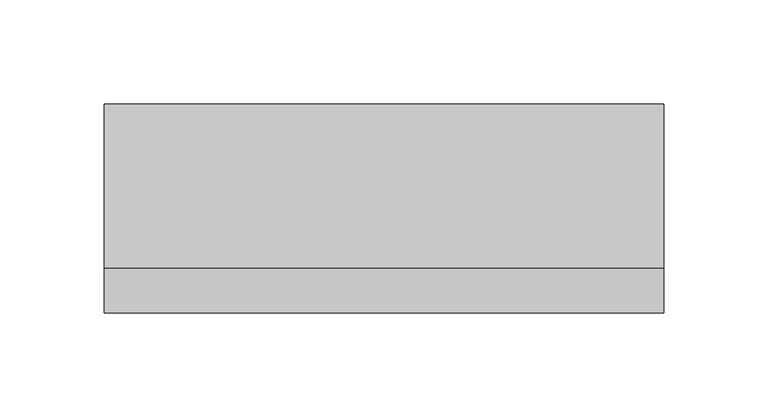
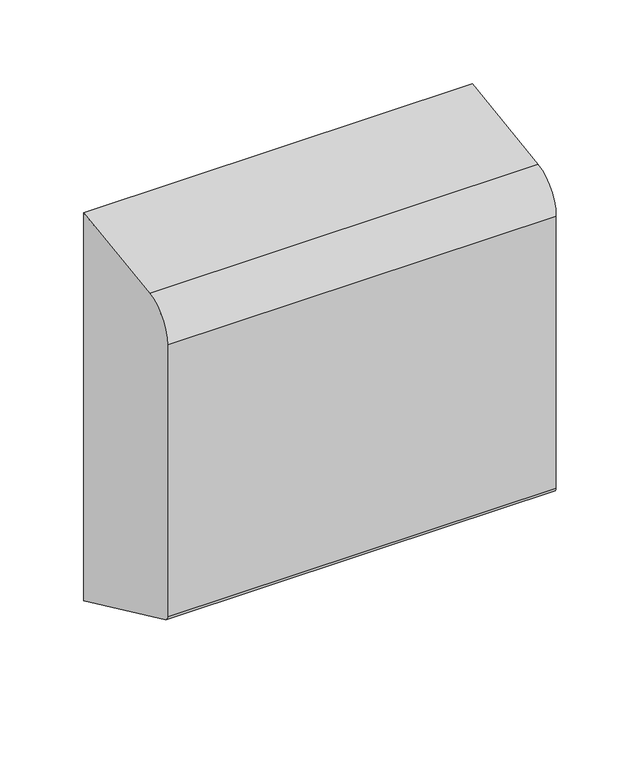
"""IFC4 building model written with IfcOpenShell, lengths in millimetres: proxy geometry, Hand Dryer_Metlam_Slimline : 268w x 100d x 283h (ML_100N_SS)."""

import ifcopenshell
import ifcopenshell.guid

model = None  # the IFC model being written
_history = None  # IfcOwnerHistory: only IFC2X3 demands one
_inside = {}  # id of a spatial element -> (the spatial element, [elements in it])
_under = {}  # id of a project, library or spatial element -> (it, [spatial elements below it])
_declared = {}  # id of a project -> (the project, [libraries it declares])
_typed = {}  # id of a type object -> (the type object, [elements of that type])
_made_of = {}  # id of a material, layer set ... -> (it, [elements and type objects made of it])


def new_model(schema):
    """Start an empty IFC model of exactly this schema.

    Asked for "IFC4X3", IfcOpenShell would pick the latest addendum, in which some entities
    have other attributes; the version numbers below select the first issue.
    IFC2X3 requires an IfcOwnerHistory on every rooted entity: one is made here for all.
    """
    global model, _history
    if schema == "IFC4X3":
        model = ifcopenshell.file(schema_version=(4, 3, 0, 0))
    else:
        model = ifcopenshell.file(schema=schema)
    _inside.clear()
    _under.clear()
    _declared.clear()
    _typed.clear()
    _made_of.clear()
    _history = None
    if model.schema == "IFC2X3":
        org = make("IfcOrganization", Name="unknown")
        user = make(
            "IfcPersonAndOrganization",
            ThePerson=make("IfcPerson", FamilyName="unknown"),
            TheOrganization=org,
        )
        app = make(
            "IfcApplication",
            ApplicationDeveloper=org,
            Version="unknown",
            ApplicationFullName="unknown",
            ApplicationIdentifier="unknown",
        )
        _history = make(
            "IfcOwnerHistory",
            OwningUser=user,
            OwningApplication=app,
            ChangeAction="ADDED",
            CreationDate=0,
        )
    return model


def make(cls, **values):
    """One entity of the class cls with the attributes given. An attribute that is None is left unset."""
    return model.create_entity(
        cls, **{name: value for name, value in values.items() if value is not None}
    )


def rooted(cls, **values):
    """An entity with a GlobalId (a new one), such as an element, a storey or a relation."""
    return make(cls, GlobalId=ifcopenshell.guid.new(), OwnerHistory=_history, **values)


def si_unit(unit_type, name, prefix=None):
    """IfcSIUnit, for example si_unit("LENGTHUNIT", "METRE", prefix="MILLI")."""
    return make("IfcSIUnit", UnitType=unit_type, Prefix=prefix, Name=name)


def assignment(units):
    """IfcUnitAssignment: the units of a project."""
    return None if units is None else make("IfcUnitAssignment", Units=units)


def point(xyz):
    """IfcCartesianPoint."""
    return None if xyz is None else make("IfcCartesianPoint", Coordinates=xyz)


def direction(xyz):
    """IfcDirection."""
    return None if xyz is None else make("IfcDirection", DirectionRatios=xyz)


def frame(location, z_axis=None, x_axis=None):
    """IfcAxis2Placement3D, a coordinate frame: its origin and axes. An axis left out is left unset."""
    return make(
        "IfcAxis2Placement3D",
        Location=point(location),
        Axis=direction(z_axis),
        RefDirection=direction(x_axis),
    )


def origin():
    """The frame at (0, 0, 0) with its axes left unset."""
    return frame((0.0, 0.0, 0.0))


def place(relative_to, where):
    """IfcLocalPlacement: puts the frame where relative to a parent placement (None: the world)."""
    return make(
        "IfcLocalPlacement", PlacementRelTo=relative_to, RelativePlacement=where
    )


def context(
    kind, dimensions, precision=None, world=None, true_north=None, identifier=None
):
    """IfcGeometricRepresentationContext, for example the 3D "Model" context."""
    return make(
        "IfcGeometricRepresentationContext",
        ContextIdentifier=identifier,
        ContextType=kind,
        CoordinateSpaceDimension=dimensions,
        Precision=precision,
        WorldCoordinateSystem=world,
        TrueNorth=true_north,
    )


def project(units=None, contexts=None):
    """IfcProject with its units and contexts."""
    return rooted(
        "IfcProject",
        Name="project",
        RepresentationContexts=contexts,
        UnitsInContext=assignment(units),
    )


def spatial(cls, under=None, at=None, **own):
    """A site, building, storey or space (cls), placed at a placement, below another one or the project."""
    s = rooted(cls, ObjectPlacement=at, **own)
    if under is not None:
        _under.setdefault(under.id(), (under, []))[1].append(s)
    return s


def polyline(points):
    """IfcPolyline through the points."""
    return make("IfcPolyline", Points=[point(p) for p in points])


def circle_curve(where, radius):
    """IfcCircle in the frame where."""
    return make("IfcCircle", Position=where, Radius=radius)


def ellipse_curve(where, semi_axis1, semi_axis2):
    """IfcEllipse in the frame where."""
    return make(
        "IfcEllipse", Position=where, SemiAxis1=semi_axis1, SemiAxis2=semi_axis2
    )


def shape(context_of_items, identifier, shape_type, items):
    """IfcShapeRepresentation: the items that make up one representation, for example the "Body"."""
    return make(
        "IfcShapeRepresentation",
        ContextOfItems=context_of_items,
        RepresentationIdentifier=identifier,
        RepresentationType=shape_type,
        Items=items,
    )


def source(mapping_origin, context_of_items, identifier, shape_type, items):
    """IfcRepresentationMap: a shape defined once, which mapped items show again and again."""
    return make(
        "IfcRepresentationMap",
        MappingOrigin=mapping_origin,
        MappedRepresentation=shape(context_of_items, identifier, shape_type, items),
    )


def transform(
    local_origin,
    x_axis=None,
    y_axis=None,
    z_axis=None,
    scale=None,
    scale2=None,
    scale3=None,
    uniform=True,
):
    """IfcCartesianTransformationOperator3D, or its non-uniform kind. x_axis, y_axis, z_axis: its Axis1, 2, 3."""
    if uniform:
        return make(
            "IfcCartesianTransformationOperator3D",
            Axis1=direction(x_axis),
            Axis2=direction(y_axis),
            LocalOrigin=point(local_origin),
            Scale=scale,
            Axis3=direction(z_axis),
        )
    return make(
        "IfcCartesianTransformationOperator3DnonUniform",
        Axis1=direction(x_axis),
        Axis2=direction(y_axis),
        LocalOrigin=point(local_origin),
        Scale=scale,
        Axis3=direction(z_axis),
        Scale2=scale2,
        Scale3=scale3,
    )


def mapped(mapping_source, mapping_target):
    """IfcMappedItem: shows the shape of a source again, moved by a transform."""
    return make(
        "IfcMappedItem", MappingSource=mapping_source, MappingTarget=mapping_target
    )


def made_of(thing, what):
    """Note that an element or type object is made of a material, layer set ...; save() writes the relation."""
    if what is not None:
        _made_of.setdefault(what.id(), (what, []))[1].append(thing)
    return thing


def element(
    cls,
    number,
    at=None,
    inside=None,
    cuts=None,
    type_object=None,
    material=None,
    context=None,
    identifier="Body",
    shape_type=None,
    held_by="IfcProductDefinitionShape",
    body=None,
    shapes=None,
    **own,
):
    """One element of the class cls, such as IfcWall. Its Tag is "e" and its number.

    at: its placement. inside: the storey or other place that contains it. cuts: it is an
    opening in that element (IfcRelVoidsElement). A single representation is given by context,
    identifier, shape_type and body (its items); several are given by shapes. held_by: the class
    of the entity that holds the representations. save() writes the other relations.
    """
    e = rooted(cls, Tag="e%d" % number, ObjectPlacement=at, **own)
    if body is not None:
        shapes = [shape(context, identifier, shape_type, body)]
    if shapes is not None:
        e.Representation = make(held_by, Representations=shapes)
    if inside is not None:
        _inside.setdefault(inside.id(), (inside, []))[1].append(e)
    if cuts is not None:
        rooted(
            "IfcRelVoidsElement", RelatingBuildingElement=cuts, RelatedOpeningElement=e
        )
    if type_object is not None:
        _typed.setdefault(type_object.id(), (type_object, []))[1].append(e)
    return made_of(e, material)


def aggregate(whole, parts):
    """IfcRelAggregates: a whole, such as a stair, and the parts it consists of."""
    return rooted("IfcRelAggregates", RelatingObject=whole, RelatedObjects=parts)


def save(model, path):
    """Write the relations noted so far, then the file.

    IfcRelAggregates (storeys below a building ...), IfcRelContainedInSpatialStructure (elements
    in a storey), IfcRelDefinesByType, IfcRelAssociatesMaterial and IfcRelDeclares: one each for
    every whole, place, type object, material and project.
    """
    for whole, parts in _under.values():
        aggregate(whole, parts)
    for where, things in _inside.values():
        rooted(
            "IfcRelContainedInSpatialStructure",
            RelatedElements=things,
            RelatingStructure=where,
        )
    for kind, things in _typed.values():
        rooted("IfcRelDefinesByType", RelatedObjects=things, RelatingType=kind)
    for what, things in _made_of.values():
        rooted("IfcRelAssociatesMaterial", RelatedObjects=things, RelatingMaterial=what)
    for by, libraries in _declared.values():
        rooted("IfcRelDeclares", RelatingContext=by, RelatedDefinitions=libraries)
    model.write(path)


def plane_surface(at):
    """IfcPlane: the flat surface through the origin of the frame at, square to its z axis."""
    return make("IfcPlane", Position=at)


def cylinder_surface(at, radius):
    """IfcCylindricalSurface: all points at the distance radius from the z axis of the frame at."""
    return make("IfcCylindricalSurface", Position=at, Radius=radius)


def revolved_surface(curve, axis_point, axis_direction):
    """IfcSurfaceOfRevolution: the curve turned about the line through axis_point along axis_direction."""
    return make(
        "IfcSurfaceOfRevolution",
        SweptCurve=make("IfcArbitraryOpenProfileDef", ProfileType="CURVE", Curve=curve),
        AxisPosition=make("IfcAxis1Placement", Location=point(axis_point), Axis=direction(axis_direction)),
    )


def advanced_brep(points, edges, surfaces, faces):
    """IfcAdvancedBrep: a solid bounded by faces that lie on surfaces and meet in shared edges.

    An edge is (start, end): straight between two places in points (the first is 0);
    or (start, end, curve); or (start, end, curve, False) where it runs against its curve.
    A face is (place in surfaces, loops), or (place, loops, False) where it looks against
    its surface's normal. A loop lists edges by number (the first is 1), with a minus sign
    where the edge is run from its end to its start. The first loop is the outer one.
    """
    corners = [point(p) for p in points]
    vertices = [make("IfcVertexPoint", VertexGeometry=c) for c in corners]
    made = []
    for start, end, *more in edges:
        made.append(
            make(
                "IfcEdgeCurve",
                EdgeStart=vertices[start],
                EdgeEnd=vertices[end],
                EdgeGeometry=more[0] if more else make("IfcPolyline", Points=[corners[start], corners[end]]),
                SameSense=more[1] if len(more) > 1 else True,
            )
        )
    hull = []
    for where, loops, *sense in faces:
        bounds = []
        for j, loop in enumerate(loops):
            ring = [make("IfcOrientedEdge", EdgeElement=made[abs(k) - 1], Orientation=k > 0) for k in loop]
            bounds.append(
                make(
                    "IfcFaceOuterBound" if j == 0 else "IfcFaceBound",
                    Bound=make("IfcEdgeLoop", EdgeList=ring),
                    Orientation=True,
                )
            )
        hull.append(make("IfcAdvancedFace", Bounds=bounds, FaceSurface=surfaces[where], SameSense=sense[0] if sense else True))
    return make("IfcAdvancedBrep", Outer=make("IfcClosedShell", CfsFaces=hull))


def specialty_equipment_0715c5d2(model_context):
    return source(origin(), model_context, "Body", "AdvancedBrep", [
        advanced_brep(
        [(75.572758, -81.2312691, 1140.2865856), (72.572758, -81.2312691, 1140.2865856), (72.572758, -27.319618, 1115.0151027), (75.572758, -27.319618, 1115.0151027), (67.572758, -81.2312691, 1140.2865856), (64.572758, -81.2312691, 1140.2865856), (64.572758, -27.319618, 1115.0151027), (67.572758, -27.319618, 1115.0151027), (59.572758, -81.2312691, 1140.2865856), (56.572758, -81.2312691, 1140.2865856), (56.572758, -27.319618, 1115.0151027), (59.572758, -27.319618, 1115.0151027), (51.572758, -81.2312691, 1140.2865856), (48.572758, -81.2312691, 1140.2865856), (48.572758, -27.319618, 1115.0151027), (51.572758, -27.319618, 1115.0151027), (43.572758, -81.2312691, 1140.2865856), (40.572758, -81.2312691, 1140.2865856), (40.572758, -27.319618, 1115.0151027), (43.572758, -27.319618, 1115.0151027), (35.572758, -81.2312691, 1140.2865856), (32.572758, -81.2312691, 1140.2865856), (32.572758, -27.319618, 1115.0151027), (35.572758, -27.319618, 1115.0151027), (27.572758, -81.2312691, 1140.2865856), (24.572758, -81.2312691, 1140.2865856), (24.572758, -27.319618, 1115.0151027), (27.572758, -27.319618, 1115.0151027), (11.572758, -81.2312691, 1140.2865856), (8.572758, -81.2312691, 1140.2865856), (8.572758, -27.319618, 1115.0151027), (11.572758, -27.319618, 1115.0151027), (19.572758, -81.2312691, 1140.2865856), (16.572758, -81.2312691, 1140.2865856), (16.572758, -27.319618, 1115.0151027), (19.572758, -27.319618, 1115.0151027), (-19.0, -79.8730846, 1139.6499266), (-22.0, -82.5894537, 1140.9232446), (-86.0, -82.5894537, 1140.9232446), (-89.0, -79.8730846, 1139.6499266), (-89.0, -49.0875677, 1125.2189892), (-86.0, -46.3711986, 1123.9456712), (-22.0, -46.3711986, 1123.9456712), (-19.0, -49.0875677, 1125.2189892), (75.572758, -82.0801478, 1138.4756728), (72.572758, -82.0801478, 1138.4756728), (72.572758, -28.1684966, 1113.2041899), (75.572758, -28.1684966, 1113.2041899), (-22.0, -83.4383324, 1139.1123318), (-86.0, -83.4383324, 1139.1123318), (-89.0, -80.7219632, 1137.8390138), (-89.0, -49.9364464, 1123.4080764), (-86.0, -47.2200773, 1122.1347584), (-22.0, -47.2200773, 1122.1347584), (-19.0, -49.9364464, 1123.4080764), (-19.0, -80.7219632, 1137.8390138), (134.0, 0.0, 1100.0), (134.0, 0.0, 1383.0), (134.0, -78.4793275, 1371.9704498), (134.0, -100.0, 1347.2137481), (134.0, -100.0, 1149.1005386), (134.0, -97.9855377, 1145.9314413), (-134.0, 0.0, 1100.0), (-134.0, -97.9855377, 1145.9314413), (-134.0, -100.0, 1149.1005386), (-134.0, -100.0, 1347.2137481), (-134.0, -78.4793275, 1371.9704498), (-134.0, 0.0, 1383.0), (-99.0157072, -9.0545638, 1104.2443933), (-99.0157072, -23.5418658, 1111.0354227), (99.0157072, -9.0545638, 1104.2443933), (99.0157072, -23.5418658, 1111.0354227), (64.572758, -82.0801478, 1138.4756728), (67.572758, -82.0801478, 1138.4756728), (67.572758, -28.1684966, 1113.2041899), (64.572758, -28.1684966, 1113.2041899), (56.572758, -82.0801478, 1138.4756728), (59.572758, -82.0801478, 1138.4756728), (59.572758, -28.1684966, 1113.2041899), (56.572758, -28.1684966, 1113.2041899), (48.572758, -82.0801478, 1138.4756728), (51.572758, -82.0801478, 1138.4756728), (51.572758, -28.1684966, 1113.2041899), (48.572758, -28.1684966, 1113.2041899), (40.572758, -82.0801478, 1138.4756728), (43.572758, -82.0801478, 1138.4756728), (43.572758, -28.1684966, 1113.2041899), (40.572758, -28.1684966, 1113.2041899), (32.572758, -82.0801478, 1138.4756728), (35.572758, -82.0801478, 1138.4756728), (35.572758, -28.1684966, 1113.2041899), (32.572758, -28.1684966, 1113.2041899), (24.572758, -82.0801478, 1138.4756728), (27.572758, -82.0801478, 1138.4756728), (27.572758, -28.1684966, 1113.2041899), (24.572758, -28.1684966, 1113.2041899), (8.572758, -82.0801478, 1138.4756728), (11.572758, -82.0801478, 1138.4756728), (11.572758, -28.1684966, 1113.2041899), (8.572758, -28.1684966, 1113.2041899), (16.572758, -82.0801478, 1138.4756728), (19.572758, -82.0801478, 1138.4756728), (19.572758, -28.1684966, 1113.2041899), (16.572758, -28.1684966, 1113.2041899), (129.0, -8.0, 1103.7500588), (129.0, -2.0, 1100.9375147), (121.5, -2.0, 1100.9375147), (121.5, -8.0, 1103.7500588), (-99.0157072, -22.6929871, 1112.8463355), (-99.0157072, -8.2056851, 1106.0553061), (99.0157072, -22.6929871, 1112.8463355), (99.0157072, -8.2056851, 1106.0553061), (129.0, -8.0, 1109.3170246), (121.5, -8.0, 1109.3170246), (121.5, -2.0, 1109.3170246), (129.0, -2.0, 1109.3170246)],
        [
            (0, 1, circle_curve(frame((74.072758, -81.2312691, 1140.2865856), z_axis=(0.0, -0.424439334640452, -0.9054563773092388), x_axis=(0.0, 0.9054563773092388, -0.424439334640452)), 1.5)),
            (1, 2),
            (2, 3, circle_curve(frame((74.072758, -27.319618, 1115.0151027), z_axis=(0.0, -0.424439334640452, -0.9054563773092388), x_axis=(0.0, 0.9054563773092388, -0.424439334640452)), 1.5)),
            (3, 0),
            (4, 5, circle_curve(frame((66.072758, -81.2312691, 1140.2865856), z_axis=(0.0, -0.424439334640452, -0.9054563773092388), x_axis=(0.0, 0.9054563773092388, -0.424439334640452)), 1.5)),
            (5, 6),
            (6, 7, circle_curve(frame((66.072758, -27.319618, 1115.0151027), z_axis=(0.0, -0.424439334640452, -0.9054563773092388), x_axis=(0.0, 0.9054563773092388, -0.424439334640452)), 1.5)),
            (7, 4),
            (8, 9, circle_curve(frame((58.072758, -81.2312691, 1140.2865856), z_axis=(0.0, -0.424439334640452, -0.9054563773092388), x_axis=(0.0, 0.9054563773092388, -0.424439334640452)), 1.5)),
            (9, 10),
            (10, 11, circle_curve(frame((58.072758, -27.319618, 1115.0151027), z_axis=(0.0, -0.424439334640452, -0.9054563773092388), x_axis=(0.0, 0.9054563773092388, -0.424439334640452)), 1.5)),
            (11, 8),
            (12, 13, circle_curve(frame((50.072758, -81.2312691, 1140.2865856), z_axis=(0.0, -0.424439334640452, -0.9054563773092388), x_axis=(0.0, 0.9054563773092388, -0.424439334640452)), 1.5)),
            (13, 14),
            (14, 15, circle_curve(frame((50.072758, -27.319618, 1115.0151027), z_axis=(0.0, -0.424439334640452, -0.9054563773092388), x_axis=(0.0, 0.9054563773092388, -0.424439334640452)), 1.5)),
            (15, 12),
            (16, 17, circle_curve(frame((42.072758, -81.2312691, 1140.2865856), z_axis=(0.0, -0.424439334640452, -0.9054563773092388), x_axis=(0.0, 0.9054563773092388, -0.424439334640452)), 1.5)),
            (17, 18),
            (18, 19, circle_curve(frame((42.072758, -27.319618, 1115.0151027), z_axis=(0.0, -0.424439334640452, -0.9054563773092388), x_axis=(0.0, 0.9054563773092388, -0.424439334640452)), 1.5)),
            (19, 16),
            (20, 21, circle_curve(frame((34.072758, -81.2312691, 1140.2865856), z_axis=(0.0, -0.424439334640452, -0.9054563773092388), x_axis=(0.0, 0.9054563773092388, -0.424439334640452)), 1.5)),
            (21, 22),
            (22, 23, circle_curve(frame((34.072758, -27.319618, 1115.0151027), z_axis=(0.0, -0.424439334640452, -0.9054563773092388), x_axis=(0.0, 0.9054563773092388, -0.424439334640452)), 1.5)),
            (23, 20),
            (24, 25, circle_curve(frame((26.072758, -81.2312691, 1140.2865856), z_axis=(0.0, -0.424439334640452, -0.9054563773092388), x_axis=(0.0, 0.9054563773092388, -0.424439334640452)), 1.5)),
            (25, 26),
            (26, 27, circle_curve(frame((26.072758, -27.319618, 1115.0151027), z_axis=(0.0, -0.424439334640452, -0.9054563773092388), x_axis=(0.0, 0.9054563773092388, -0.424439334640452)), 1.5)),
            (27, 24),
            (28, 29, circle_curve(frame((10.072758, -81.2312691, 1140.2865856), z_axis=(0.0, -0.424439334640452, -0.9054563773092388), x_axis=(0.0, 0.9054563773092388, -0.424439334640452)), 1.5)),
            (29, 30),
            (30, 31, circle_curve(frame((10.072758, -27.319618, 1115.0151027), z_axis=(0.0, -0.424439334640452, -0.9054563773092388), x_axis=(0.0, 0.9054563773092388, -0.424439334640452)), 1.5)),
            (31, 28),
            (32, 33, circle_curve(frame((18.072758, -81.2312691, 1140.2865856), z_axis=(0.0, -0.424439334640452, -0.9054563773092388), x_axis=(0.0, 0.9054563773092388, -0.424439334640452)), 1.5)),
            (33, 34),
            (34, 35, circle_curve(frame((18.072758, -27.319618, 1115.0151027), z_axis=(0.0, -0.424439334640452, -0.9054563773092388), x_axis=(0.0, 0.9054563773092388, -0.424439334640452)), 1.5)),
            (35, 32),
            (36, 37, circle_curve(frame((-22.0, -79.8730846, 1139.6499266), z_axis=(0.0, -0.424439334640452, -0.9054563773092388), x_axis=(0.0, 0.9054563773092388, -0.424439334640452)), 3.0)),
            (37, 38),
            (38, 39, circle_curve(frame((-86.0, -79.8730846, 1139.6499266), z_axis=(0.0, -0.424439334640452, -0.9054563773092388), x_axis=(0.0, 0.9054563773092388, -0.424439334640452)), 3.0)),
            (39, 40),
            (40, 41, circle_curve(frame((-86.0, -49.0875677, 1125.2189892), z_axis=(0.0, -0.424439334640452, -0.9054563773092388), x_axis=(0.0, 0.9054563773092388, -0.424439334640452)), 3.0)),
            (41, 42),
            (42, 43, circle_curve(frame((-22.0, -49.0875677, 1125.2189892), z_axis=(0.0, -0.424439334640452, -0.9054563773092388), x_axis=(0.0, 0.9054563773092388, -0.424439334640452)), 3.0)),
            (43, 36),
            (0, 44),
            (44, 45, circle_curve(frame((74.072758, -82.0801478, 1138.4756728), z_axis=(0.0, -0.424439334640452, -0.9054563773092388), x_axis=(0.0, 0.9054563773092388, -0.424439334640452)), 1.5)),
            (45, 1),
            (45, 46),
            (46, 2),
            (46, 47, circle_curve(frame((74.072758, -28.1684966, 1113.2041899), z_axis=(0.0, -0.424439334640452, -0.9054563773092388), x_axis=(0.0, 0.9054563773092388, -0.424439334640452)), 1.5)),
            (47, 3),
            (47, 44),
            (37, 48),
            (48, 49),
            (49, 38),
            (39, 50),
            (50, 51),
            (51, 40),
            (41, 52),
            (52, 53),
            (53, 42),
            (43, 54),
            (54, 55),
            (55, 36),
            (56, 57),
            (57, 58),
            (58, 59, circle_curve(frame((134.0, -75.0, 1347.2137481), z_axis=(1.0, 0.0, 0.0), x_axis=(0.0, 1.0, 0.0)), 25.0)),
            (59, 60),
            (60, 61, circle_curve(frame((134.0, -96.5, 1149.1005386), z_axis=(1.0, 0.0, 0.0), x_axis=(0.0, 1.0, 0.0)), 3.5)),
            (61, 56),
            (62, 63),
            (63, 64, circle_curve(frame((-134.0, -96.5, 1149.1005386), z_axis=(-1.0, 0.0, 0.0), x_axis=(0.0, 1.0, 0.0)), 3.5)),
            (64, 65),
            (65, 66, circle_curve(frame((-134.0, -75.0, 1347.2137481), z_axis=(-1.0, 0.0, 0.0), x_axis=(0.0, 1.0, 0.0)), 25.0)),
            (66, 67),
            (67, 62),
            (56, 62),
            (67, 57),
            (66, 58),
            (65, 59),
            (64, 60),
            (63, 61),
            (48, 55, circle_curve(frame((-22.0, -80.7219632, 1137.8390138), z_axis=(0.0, 0.424439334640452, 0.9054563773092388), x_axis=(0.0, 0.9054563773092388, -0.424439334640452)), 3.0)),
            (54, 53, circle_curve(frame((-22.0, -49.9364464, 1123.4080764), z_axis=(0.0, 0.424439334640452, 0.9054563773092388), x_axis=(0.0, 0.9054563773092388, -0.424439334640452)), 3.0)),
            (52, 51, circle_curve(frame((-86.0, -49.9364464, 1123.4080764), z_axis=(0.0, 0.424439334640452, 0.9054563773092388), x_axis=(0.0, 0.9054563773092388, -0.424439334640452)), 3.0)),
            (50, 49, circle_curve(frame((-86.0, -80.7219632, 1137.8390138), z_axis=(0.0, 0.424439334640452, 0.9054563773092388), x_axis=(0.0, 0.9054563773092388, -0.424439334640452)), 3.0)),
            (68, 69, circle_curve(frame((-99.0157072, -16.2982148, 1107.639908), z_axis=(0.0, 0.424439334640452, 0.9054563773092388), x_axis=(0.0, 0.9054563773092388, -0.424439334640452)), 8.0)),
            (69, 68, circle_curve(frame((-99.0157072, -16.2982148, 1107.639908), z_axis=(0.0, 0.424439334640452, 0.9054563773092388), x_axis=(0.0, 0.9054563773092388, -0.424439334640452)), 8.0)),
            (70, 71, circle_curve(frame((99.0157072, -16.2982148, 1107.639908), z_axis=(0.0, 0.424439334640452, 0.9054563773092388), x_axis=(0.0, 0.9054563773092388, -0.424439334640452)), 8.0)),
            (71, 70, circle_curve(frame((99.0157072, -16.2982148, 1107.639908), z_axis=(0.0, 0.424439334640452, 0.9054563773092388), x_axis=(0.0, 0.9054563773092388, -0.424439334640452)), 8.0)),
            (72, 73, circle_curve(frame((66.072758, -82.0801478, 1138.4756728), z_axis=(0.0, 0.424439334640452, 0.9054563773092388), x_axis=(0.0, 0.9054563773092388, -0.424439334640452)), 1.5)),
            (73, 74),
            (74, 75, circle_curve(frame((66.072758, -28.1684966, 1113.2041899), z_axis=(0.0, 0.424439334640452, 0.9054563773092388), x_axis=(0.0, 0.9054563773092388, -0.424439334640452)), 1.5)),
            (75, 72),
            (76, 77, circle_curve(frame((58.072758, -82.0801478, 1138.4756728), z_axis=(0.0, 0.424439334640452, 0.9054563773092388), x_axis=(0.0, 0.9054563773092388, -0.424439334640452)), 1.5)),
            (77, 78),
            (78, 79, circle_curve(frame((58.072758, -28.1684966, 1113.2041899), z_axis=(0.0, 0.424439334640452, 0.9054563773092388), x_axis=(0.0, 0.9054563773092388, -0.424439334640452)), 1.5)),
            (79, 76),
            (80, 81, circle_curve(frame((50.072758, -82.0801478, 1138.4756728), z_axis=(0.0, 0.424439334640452, 0.9054563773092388), x_axis=(0.0, 0.9054563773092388, -0.424439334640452)), 1.5)),
            (81, 82),
            (82, 83, circle_curve(frame((50.072758, -28.1684966, 1113.2041899), z_axis=(0.0, 0.424439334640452, 0.9054563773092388), x_axis=(0.0, 0.9054563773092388, -0.424439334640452)), 1.5)),
            (83, 80),
            (84, 85, circle_curve(frame((42.072758, -82.0801478, 1138.4756728), z_axis=(0.0, 0.424439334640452, 0.9054563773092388), x_axis=(0.0, 0.9054563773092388, -0.424439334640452)), 1.5)),
            (85, 86),
            (86, 87, circle_curve(frame((42.072758, -28.1684966, 1113.2041899), z_axis=(0.0, 0.424439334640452, 0.9054563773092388), x_axis=(0.0, 0.9054563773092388, -0.424439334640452)), 1.5)),
            (87, 84),
            (88, 89, circle_curve(frame((34.072758, -82.0801478, 1138.4756728), z_axis=(0.0, 0.424439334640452, 0.9054563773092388), x_axis=(0.0, 0.9054563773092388, -0.424439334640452)), 1.5)),
            (89, 90),
            (90, 91, circle_curve(frame((34.072758, -28.1684966, 1113.2041899), z_axis=(0.0, 0.424439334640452, 0.9054563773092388), x_axis=(0.0, 0.9054563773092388, -0.424439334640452)), 1.5)),
            (91, 88),
            (92, 93, circle_curve(frame((26.072758, -82.0801478, 1138.4756728), z_axis=(0.0, 0.424439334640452, 0.9054563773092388), x_axis=(0.0, 0.9054563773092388, -0.424439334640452)), 1.5)),
            (93, 94),
            (94, 95, circle_curve(frame((26.072758, -28.1684966, 1113.2041899), z_axis=(0.0, 0.424439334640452, 0.9054563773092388), x_axis=(0.0, 0.9054563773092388, -0.424439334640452)), 1.5)),
            (95, 92),
            (96, 97, circle_curve(frame((10.072758, -82.0801478, 1138.4756728), z_axis=(0.0, 0.424439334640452, 0.9054563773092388), x_axis=(0.0, 0.9054563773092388, -0.424439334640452)), 1.5)),
            (97, 98),
            (98, 99, circle_curve(frame((10.072758, -28.1684966, 1113.2041899), z_axis=(0.0, 0.424439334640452, 0.9054563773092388), x_axis=(0.0, 0.9054563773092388, -0.424439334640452)), 1.5)),
            (99, 96),
            (100, 101, circle_curve(frame((18.072758, -82.0801478, 1138.4756728), z_axis=(0.0, 0.424439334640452, 0.9054563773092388), x_axis=(0.0, 0.9054563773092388, -0.424439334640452)), 1.5)),
            (101, 102),
            (102, 103, circle_curve(frame((18.072758, -28.1684966, 1113.2041899), z_axis=(0.0, 0.424439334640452, 0.9054563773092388), x_axis=(0.0, 0.9054563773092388, -0.424439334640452)), 1.5)),
            (103, 100),
            (104, 105),
            (105, 106),
            (106, 107),
            (107, 104, ellipse_curve(frame((125.25, -8.0, 1103.7500588), z_axis=(0.0, 0.42443933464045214, 0.9054563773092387), x_axis=(0.0, -0.9054563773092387, 0.4244393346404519)), 4.1415579, 3.75)),
            (108, 109, circle_curve(frame((-99.0157072, -15.4493361, 1109.4508208), z_axis=(0.0, -0.424439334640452, -0.9054563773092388), x_axis=(0.0, 0.9054563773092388, -0.424439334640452)), 8.0)),
            (109, 108, circle_curve(frame((-99.0157072, -15.4493361, 1109.4508208), z_axis=(0.0, -0.424439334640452, -0.9054563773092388), x_axis=(0.0, 0.9054563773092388, -0.424439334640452)), 8.0)),
            (110, 111, circle_curve(frame((99.0157072, -15.4493361, 1109.4508208), z_axis=(0.0, -0.424439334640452, -0.9054563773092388), x_axis=(0.0, 0.9054563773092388, -0.424439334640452)), 8.0)),
            (111, 110, circle_curve(frame((99.0157072, -15.4493361, 1109.4508208), z_axis=(0.0, -0.424439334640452, -0.9054563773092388), x_axis=(0.0, 0.9054563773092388, -0.424439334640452)), 8.0)),
            (108, 69),
            (68, 109),
            (110, 71),
            (70, 111),
            (4, 73),
            (72, 5),
            (75, 6),
            (74, 7),
            (8, 77),
            (76, 9),
            (79, 10),
            (78, 11),
            (12, 81),
            (80, 13),
            (83, 14),
            (82, 15),
            (16, 85),
            (84, 17),
            (87, 18),
            (86, 19),
            (20, 89),
            (88, 21),
            (91, 22),
            (90, 23),
            (24, 93),
            (92, 25),
            (95, 26),
            (94, 27),
            (28, 97),
            (96, 29),
            (99, 30),
            (98, 31),
            (32, 101),
            (100, 33),
            (103, 34),
            (102, 35),
            (112, 113, circle_curve(frame((125.25, -8.0, 1109.3170246), z_axis=(0.0, 0.0, -1.0), x_axis=(-1.0, 0.0, 0.0)), 3.75)),
            (113, 114),
            (114, 115),
            (115, 112),
            (115, 105),
            (104, 112),
            (114, 106),
            (113, 107),
        ],
        [
            plane_surface(frame((74.072758, -79.8730846, 1139.6499266), z_axis=(0.0, -0.42443933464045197, -0.9054563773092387), x_axis=(-1.0, 0.0, 0.0))),
            revolved_surface(polyline([(74.072758, -80.72196322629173, 1137.839013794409), (74.072758, -79.87308453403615, 1139.6499265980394)]), (74.072758, -81.2312691, 1140.2865856), (0.0, -0.424439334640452, -0.9054563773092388)),
            plane_surface(frame((72.572758, -82.9290265, 1136.6647601), z_axis=(1.0, 0.0, 0.0), x_axis=(0.0, 0.4244393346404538, 0.9054563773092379))),
            revolved_surface(polyline([(74.072758, -26.81031210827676, 1112.5675309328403), (74.072758, -25.96143343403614, 1114.3784436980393)]), (74.072758, -27.319618, 1115.0151027), (0.0, -0.424439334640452, -0.9054563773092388)),
            plane_surface(frame((75.572758, -29.0173753, 1111.3932772), z_axis=(-1.0, 0.0, 0.0), x_axis=(0.0, 0.4244393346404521, 0.9054563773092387))),
            plane_surface(frame((-22.0, -84.287211, 1137.3014191), z_axis=(0.0, 0.9054563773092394, -0.4244393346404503), x_axis=(0.0, 0.4244393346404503, 0.9054563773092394))),
            plane_surface(frame((-89.0, -81.5708419, 1136.0281011), z_axis=(1.0, 0.0, 0.0), x_axis=(0.0, 0.4244393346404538, 0.9054563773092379))),
            plane_surface(frame((-86.0, -48.0689559, 1120.3238457), z_axis=(0.0, -0.9054563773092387, 0.4244393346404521), x_axis=(0.0, 0.4244393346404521, 0.9054563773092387))),
            plane_surface(frame((-19.0, -50.7853251, 1121.5971637), z_axis=(-1.0, 0.0, 0.0), x_axis=(0.0, 0.4244393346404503, 0.9054563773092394))),
            plane_surface(frame((134.0, 0.0, 1383.0), z_axis=(1.0, 0.0, 0.0), x_axis=(0.0, 0.0, 1.0))),
            plane_surface(frame((-134.0, 0.0, 1383.0), z_axis=(-1.0, 0.0, 0.0), x_axis=(0.0, 0.0, -1.0))),
            plane_surface(frame((134.0, 0.0, 1100.0), z_axis=(0.0, 1.0, 0.0), x_axis=(-1.0, 0.0, 0.0))),
            plane_surface(frame((134.0, 0.0, 1383.0), z_axis=(0.0, -0.13917310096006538, 0.9902680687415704), x_axis=(-1.0, 0.0, 0.0))),
            cylinder_surface(frame((-134.0, -75.0, 1347.2137481), z_axis=(1.0, 0.0, 0.0), x_axis=(0.0, 1.0, 0.0)), 25.0),
            plane_surface(frame((134.0, -100.0, 1347.2137481), z_axis=(0.0, -1.0, 0.0), x_axis=(-1.0, 0.0, 0.0))),
            cylinder_surface(frame((-134.0, -96.5, 1149.1005386), z_axis=(1.0, 0.0, 0.0), x_axis=(0.0, 1.0, 0.0)), 3.5),
            plane_surface(frame((134.0, -97.9855377, 1145.9314413), z_axis=(0.0, -0.42443933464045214, -0.9054563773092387), x_axis=(-1.0, 0.0, 0.0))),
            plane_surface(frame((-99.0157072, -8.2056851, 1106.0553061), z_axis=(0.0, -0.42443933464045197, -0.9054563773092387), x_axis=(-1.0, 0.0, 0.0))),
            revolved_surface(polyline([(-99.0157072, -9.054563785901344, 1104.244393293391), (-99.0157072, -8.205685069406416, 1106.0553061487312)]), (-99.0157072, -15.4493361, 1109.4508208), (0.0, -0.424439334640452, -0.9054563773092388)),
            revolved_surface(polyline([(99.0157072, -9.054563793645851, 1104.2443932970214), (99.0157072, -8.205685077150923, 1106.0553061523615)]), (99.0157072, -16.2982148, 1107.639908), (0.0, -0.424439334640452, -0.9054563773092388)),
            revolved_surface(polyline([(66.072758, -80.72196323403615, 1137.8390137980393), (66.072758, -79.87308454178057, 1139.6499266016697)]), (66.072758, -82.0801478, 1138.4756728), (0.0, -0.424439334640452, -0.9054563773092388)),
            plane_surface(frame((64.572758, -82.9290265, 1136.6647601), z_axis=(1.0, 0.0, 0.0), x_axis=(0.0, 0.4244393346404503, 0.9054563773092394))),
            revolved_surface(polyline([(66.072758, -26.810312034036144, 1112.5675308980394), (66.072758, -25.961433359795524, 1114.3784436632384)]), (66.072758, -28.1684966, 1113.2041899), (0.0, -0.424439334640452, -0.9054563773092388)),
            plane_surface(frame((67.572758, -29.0173753, 1111.3932772), z_axis=(-1.0, 0.0, 0.0), x_axis=(0.0, 0.4244393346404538, 0.9054563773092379))),
            revolved_surface(polyline([(58.072758, -80.72196323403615, 1137.8390137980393), (58.072758, -79.87308454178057, 1139.6499266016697)]), (58.072758, -82.0801478, 1138.4756728), (0.0, -0.424439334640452, -0.9054563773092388)),
            plane_surface(frame((56.572758, -82.9290265, 1136.6647601), z_axis=(1.0, 0.0, 0.0), x_axis=(0.0, 0.4244393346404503, 0.9054563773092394))),
            revolved_surface(polyline([(58.072758, -26.810312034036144, 1112.5675308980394), (58.072758, -25.961433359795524, 1114.3784436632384)]), (58.072758, -28.1684966, 1113.2041899), (0.0, -0.424439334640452, -0.9054563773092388)),
            plane_surface(frame((59.572758, -29.0173753, 1111.3932772), z_axis=(-1.0, 0.0, 0.0), x_axis=(0.0, 0.4244393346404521, 0.9054563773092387))),
            revolved_surface(polyline([(50.072758, -80.72196323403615, 1137.8390137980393), (50.072758, -79.87308454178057, 1139.6499266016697)]), (50.072758, -82.0801478, 1138.4756728), (0.0, -0.424439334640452, -0.9054563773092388)),
            plane_surface(frame((48.572758, -82.9290265, 1136.6647601), z_axis=(1.0, 0.0, 0.0), x_axis=(0.0, 0.4244393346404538, 0.9054563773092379))),
            revolved_surface(polyline([(50.072758, -26.810312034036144, 1112.5675308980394), (50.072758, -25.961433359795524, 1114.3784436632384)]), (50.072758, -28.1684966, 1113.2041899), (0.0, -0.424439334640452, -0.9054563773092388)),
            plane_surface(frame((51.572758, -29.0173753, 1111.3932772), z_axis=(-1.0, 0.0, 0.0), x_axis=(0.0, 0.4244393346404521, 0.9054563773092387))),
            revolved_surface(polyline([(42.072758, -80.72196323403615, 1137.8390137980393), (42.072758, -79.87308454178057, 1139.6499266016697)]), (42.072758, -82.0801478, 1138.4756728), (0.0, -0.424439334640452, -0.9054563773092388)),
            plane_surface(frame((40.572758, -82.9290265, 1136.6647601), z_axis=(1.0, 0.0, 0.0), x_axis=(0.0, 0.4244393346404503, 0.9054563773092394))),
            revolved_surface(polyline([(42.072758, -26.810312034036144, 1112.5675308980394), (42.072758, -25.961433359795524, 1114.3784436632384)]), (42.072758, -28.1684966, 1113.2041899), (0.0, -0.424439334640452, -0.9054563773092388)),
            plane_surface(frame((43.572758, -29.0173753, 1111.3932772), z_axis=(-1.0, 0.0, 0.0), x_axis=(0.0, 0.4244393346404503, 0.9054563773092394))),
            revolved_surface(polyline([(34.072758, -80.72196323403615, 1137.8390137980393), (34.072758, -79.87308454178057, 1139.6499266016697)]), (34.072758, -82.0801478, 1138.4756728), (0.0, -0.424439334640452, -0.9054563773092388)),
            plane_surface(frame((32.572758, -82.9290265, 1136.6647601), z_axis=(1.0, 0.0, 0.0), x_axis=(0.0, 0.4244393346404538, 0.9054563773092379))),
            revolved_surface(polyline([(34.072758, -26.810312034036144, 1112.5675308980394), (34.072758, -25.961433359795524, 1114.3784436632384)]), (34.072758, -28.1684966, 1113.2041899), (0.0, -0.424439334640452, -0.9054563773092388)),
            plane_surface(frame((35.572758, -29.0173753, 1111.3932772), z_axis=(-1.0, 0.0, 0.0), x_axis=(0.0, 0.4244393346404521, 0.9054563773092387))),
            revolved_surface(polyline([(26.072758, -80.72196323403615, 1137.8390137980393), (26.072758, -79.87308454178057, 1139.6499266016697)]), (26.072758, -82.0801478, 1138.4756728), (0.0, -0.424439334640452, -0.9054563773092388)),
            plane_surface(frame((24.572758, -82.9290265, 1136.6647601), z_axis=(1.0, 0.0, 0.0), x_axis=(0.0, 0.4244393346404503, 0.9054563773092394))),
            revolved_surface(polyline([(26.072758, -26.810312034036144, 1112.5675308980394), (26.072758, -25.961433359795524, 1114.3784436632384)]), (26.072758, -28.1684966, 1113.2041899), (0.0, -0.424439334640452, -0.9054563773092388)),
            plane_surface(frame((27.572758, -29.0173753, 1111.3932772), z_axis=(-1.0, 0.0, 0.0), x_axis=(0.0, 0.4244393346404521, 0.9054563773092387))),
            revolved_surface(polyline([(10.072758, -80.72196323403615, 1137.8390137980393), (10.072758, -79.87308454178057, 1139.6499266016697)]), (10.072758, -82.0801478, 1138.4756728), (0.0, -0.424439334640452, -0.9054563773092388)),
            plane_surface(frame((8.572758, -82.9290265, 1136.6647601), z_axis=(1.0, 0.0, 0.0), x_axis=(0.0, 0.4244393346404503, 0.9054563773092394))),
            revolved_surface(polyline([(10.072758, -26.810312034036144, 1112.5675308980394), (10.072758, -25.961433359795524, 1114.3784436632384)]), (10.072758, -28.1684966, 1113.2041899), (0.0, -0.424439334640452, -0.9054563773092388)),
            plane_surface(frame((11.572758, -29.0173753, 1111.3932772), z_axis=(-1.0, 0.0, 0.0), x_axis=(0.0, 0.4244393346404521, 0.9054563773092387))),
            revolved_surface(polyline([(18.072758, -80.72196323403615, 1137.8390137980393), (18.072758, -79.87308454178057, 1139.6499266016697)]), (18.072758, -82.0801478, 1138.4756728), (0.0, -0.424439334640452, -0.9054563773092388)),
            plane_surface(frame((16.572758, -82.9290265, 1136.6647601), z_axis=(1.0, 0.0, 0.0), x_axis=(0.0, 0.4244393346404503, 0.9054563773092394))),
            revolved_surface(polyline([(18.072758, -26.810312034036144, 1112.5675308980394), (18.072758, -25.961433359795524, 1114.3784436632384)]), (18.072758, -28.1684966, 1113.2041899), (0.0, -0.424439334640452, -0.9054563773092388)),
            plane_surface(frame((19.572758, -29.0173753, 1111.3932772), z_axis=(-1.0, 0.0, 0.0), x_axis=(0.0, 0.4244393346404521, 0.9054563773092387))),
            revolved_surface(polyline([(-22.0, -78.00559408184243, 1136.565695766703), (-22.0, -77.15671538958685, 1138.3766085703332)]), (-22.0, -80.7219632, 1137.8390138), (0.0, -0.424439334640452, -0.9054563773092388)),
            revolved_surface(polyline([(-86.0, -78.00559408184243, 1136.565695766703), (-86.0, -77.15671538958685, 1138.3766085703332)]), (-86.0, -80.7219632, 1137.8390138), (0.0, -0.424439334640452, -0.9054563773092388)),
            revolved_surface(polyline([(-86.0, -47.22007727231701, 1122.1347583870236), (-86.0, -46.3711985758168, 1123.9456711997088)]), (-86.0, -49.9364464, 1123.4080764), (0.0, -0.424439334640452, -0.9054563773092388)),
            revolved_surface(polyline([(-22.0, -47.22007727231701, 1122.1347583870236), (-22.0, -46.3711985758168, 1123.9456711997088)]), (-22.0, -49.9364464, 1123.4080764), (0.0, -0.424439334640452, -0.9054563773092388)),
            plane_surface(frame((129.0, -1.75, 1109.3170246), z_axis=(0.0, 0.0, -1.0), x_axis=(0.0, 1.0, 0.0))),
            plane_surface(frame((129.0, -8.0, 1109.3170246), z_axis=(-1.0, 0.0, 0.0), x_axis=(0.0, 0.0, -1.0))),
            plane_surface(frame((129.0, -2.0, 1109.3170246), z_axis=(0.0, -1.0, 0.0), x_axis=(0.0, 0.0, -1.0))),
            plane_surface(frame((121.5, -2.0, 1109.3170246), z_axis=(1.0, 0.0, 0.0), x_axis=(0.0, 0.0, -1.0))),
            revolved_surface(polyline([(121.5, -8.0, 1109.3170246), (121.5, -8.0, 1101.992218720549)]), (125.25, -8.0, 1100.0), (0.0, 0.0, 1.0)),
        ],
        [
            (0, [[1, 2, 3, 4]]),
            (0, [[5, 6, 7, 8]]),
            (0, [[9, 10, 11, 12]]),
            (0, [[13, 14, 15, 16]]),
            (0, [[17, 18, 19, 20]]),
            (0, [[21, 22, 23, 24]]),
            (0, [[25, 26, 27, 28]]),
            (0, [[29, 30, 31, 32]]),
            (0, [[33, 34, 35, 36]]),
            (0, [[37, 38, 39, 40, 41, 42, 43, 44]]),
            (1, [[-1, 45, 46, 47]]),
            (2, [[-2, -47, 48, 49]]),
            (3, [[-3, -49, 50, 51]]),
            (4, [[-4, -51, 52, -45]]),
            (5, [[-38, 53, 54, 55]]),
            (6, [[-40, 56, 57, 58]]),
            (7, [[-42, 59, 60, 61]]),
            (8, [[-44, 62, 63, 64]]),
            (9, [[65, 66, 67, 68, 69, 70]]),
            (10, [[71, 72, 73, 74, 75, 76]]),
            (11, [[-65, 77, -76, 78]]),
            (12, [[-66, -78, -75, 79]]),
            (13, [[-67, -79, -74, 80]]),
            (14, [[-68, -80, -73, 81]]),
            (15, [[-69, -81, -72, 82]]),
            (16, [[-70, -82, -71, -77], [-46, -52, -50, -48], [-54, 83, -63, 84, -60, 85, -57, 86], [87, 88], [89, 90], [91, 92, 93, 94], [95, 96, 97, 98], [99, 100, 101, 102], [103, 104, 105, 106], [107, 108, 109, 110], [111, 112, 113, 114], [115, 116, 117, 118], [119, 120, 121, 122], [123, 124, 125, 126]]),
            (17, [[127, 128]]),
            (17, [[129, 130]]),
            (18, [[-127, 131, -87, 132]]),
            (18, [[-128, -132, -88, -131]]),
            (19, [[-129, 133, -89, 134]]),
            (19, [[-130, -134, -90, -133]]),
            (20, [[-5, 135, -91, 136]]),
            (21, [[-6, -136, -94, 137]]),
            (22, [[-7, -137, -93, 138]]),
            (23, [[-8, -138, -92, -135]]),
            (24, [[-9, 139, -95, 140]]),
            (25, [[-10, -140, -98, 141]]),
            (26, [[-11, -141, -97, 142]]),
            (27, [[-12, -142, -96, -139]]),
            (28, [[-13, 143, -99, 144]]),
            (29, [[-14, -144, -102, 145]]),
            (30, [[-15, -145, -101, 146]]),
            (31, [[-16, -146, -100, -143]]),
            (32, [[-17, 147, -103, 148]]),
            (33, [[-18, -148, -106, 149]]),
            (34, [[-19, -149, -105, 150]]),
            (35, [[-20, -150, -104, -147]]),
            (36, [[-21, 151, -107, 152]]),
            (37, [[-22, -152, -110, 153]]),
            (38, [[-23, -153, -109, 154]]),
            (39, [[-24, -154, -108, -151]]),
            (40, [[-25, 155, -111, 156]]),
            (41, [[-26, -156, -114, 157]]),
            (42, [[-27, -157, -113, 158]]),
            (43, [[-28, -158, -112, -155]]),
            (44, [[-29, 159, -115, 160]]),
            (45, [[-30, -160, -118, 161]]),
            (46, [[-31, -161, -117, 162]]),
            (47, [[-32, -162, -116, -159]]),
            (48, [[-33, 163, -119, 164]]),
            (49, [[-34, -164, -122, 165]]),
            (50, [[-35, -165, -121, 166]]),
            (51, [[-36, -166, -120, -163]]),
            (52, [[-37, -64, -83, -53]]),
            (53, [[-39, -55, -86, -56]]),
            (54, [[-41, -58, -85, -59]]),
            (55, [[-43, -61, -84, -62]]),
            (56, [[167, 168, 169, 170]]),
            (57, [[-170, 171, -123, 172]]),
            (58, [[-169, 173, -124, -171]]),
            (59, [[-168, 174, -125, -173]]),
            (60, [[-167, -172, -126, -174]]),
        ],
    ),
    ])


if __name__ == "__main__":
    model = new_model("IFC4")
    model_context = context("Model", 3, world=origin())
    ifc_project = project(units=[si_unit("LENGTHUNIT", "METRE", prefix="MILLI")], contexts=[model_context])
    site = spatial("IfcSite", under=ifc_project)
    building = spatial("IfcBuilding", under=site)
    placement = place(None, origin())
    specialty_equipment_shape = specialty_equipment_0715c5d2(model_context)
    element("IfcBuildingElementProxy", 1, Name="Hand Dryer_Metlam_Slimline : 268w x 100d x 283h (ML_100N_SS)", ObjectType="Hand Dryer_Metlam_Slimline : 268w x 100d x 283h (ML_100N_SS)", at=placement, inside=building, context=model_context, shape_type="MappedRepresentation", body=[
        mapped(specialty_equipment_shape, transform((0.0, 0.0, 0.0), x_axis=(1.0, 0.0, 0.0), y_axis=(0.0, 1.0, 0.0), z_axis=(0.0, 0.0, 1.0))),
    ])
    save(model, "model.ifc")
